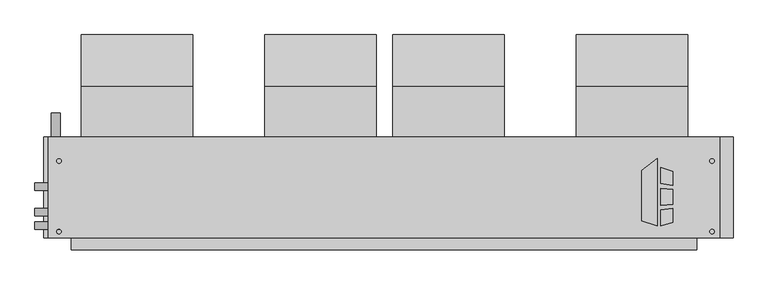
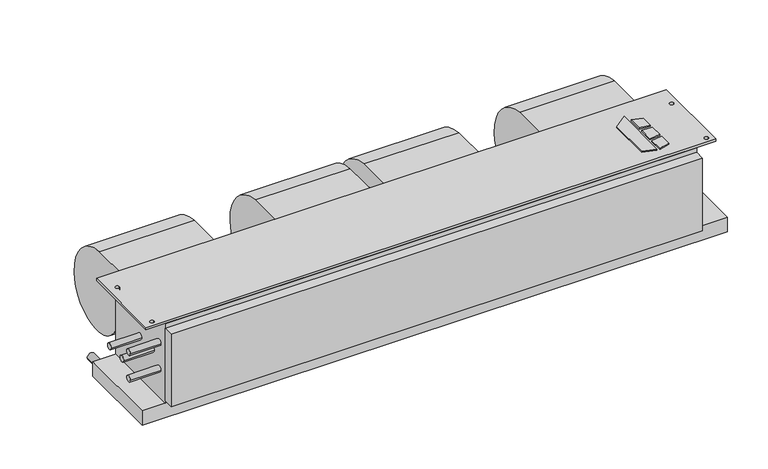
"""IFC4 building model written with IfcOpenShell, lengths in millimetres: proxy geometry, Concealed_Horizontal_Fan_Coil_Unit_-_CHY_-_IEC_-_4-Pipe_LH_2022 : Size 10 - 277v/60Hz/1Ph - 4/1 Coil."""

from ifc_helpers import new_model, si_unit, point, frame, frame_2d, origin, origin_with_axes, place, context, project, spatial, polyline, circle_curve, trimmed, segment, composite_curve, outline, extrude, source, transform, mapped, element, save


def mechanical_equipment_4577cfd4(model_context):
    return source(origin(), model_context, "Body", "SweptSolid", [
        extrude(outline(polyline([(696.6019761, -202.5703476), (729.1602728, -177.1330184), (729.1602728, -319.0875), (696.6019761, -308.8679201), (696.6019761, -202.5703476)])), origin_with_axes(), (0.0, 0.0, 1.0), 3.175),
        extrude(outline(polyline([(735.9186058, -230.442352), (735.9186058, -195.9624379), (762.0, -204.1490115), (762.0, -233.6447446), (735.9186058, -230.442352)])), origin_with_axes(), (0.0, 0.0, 1.0), 3.175),
        extrude(outline(polyline([(762.0, -312.0990115), (735.9186058, -319.0875), (735.9186058, -285.8661996), (762.0, -282.3243564), (762.0, -312.0990115)])), origin_with_axes(), (0.0, 0.0, 1.0), 3.175),
        extrude(outline(polyline([(762.0, -242.7263277), (762.0, -273.976483), (735.9186058, -276.717748), (735.9186058, -240.8600378), (762.0, -242.7263277)])), origin_with_axes(), (0.0, 0.0, 1.0), 3.175),
        extrude(outline(composite_curve([segment(trimmed(circle_curve(frame_2d((-33.198831, -136.0299844)), 117.3559541), [point((-23.8125, -19.05))], [point((84.1375, -138.176))], False, "CARTESIAN"), True, "CONTINUOUS"), segment(trimmed(circle_curve(frame_2d((-11.5977337, -136.4250563)), 95.7512443), [point((84.1375, -138.176))], [point((-23.8125, -231.394))], False, "CARTESIAN"), True, "CONTINUOUS"), segment(trimmed(circle_curve(frame_2d((-11.6288131, -136.6666968)), 95.5076133), [point((-23.8125, -231.394))], [point((-107.1245, -138.176))], False, "CARTESIAN"), True, "CONTINUOUS"), segment(trimmed(circle_curve(frame_2d((-126.2059828, -138.4775816)), 19.0838659), [point((-107.1245, -138.176))], [point((-119.3963373, -120.65))], True, "CARTESIAN"), True, "CONTINUOUS"), segment(polyline([(-119.3963373, -120.65), (-131.7625, -120.65), (-131.7625, -19.05), (-23.8125, -19.05)]), True, "CONTINUOUS")], self_intersect=False)), frame((558.038, 0.0, 0.0), z_axis=(1.0, 0.0, 0.0), x_axis=(0.0, 1.0, 0.0)), (0.0, 0.0, 1.0), 235.712),
        extrude(outline(composite_curve([segment(trimmed(circle_curve(frame_2d((-33.198831, -136.0299844)), 117.3559541), [point((-23.8125, -19.05))], [point((84.1375, -138.176))], False, "CARTESIAN"), True, "CONTINUOUS"), segment(trimmed(circle_curve(frame_2d((-11.5977337, -136.4250563)), 95.7512443), [point((84.1375, -138.176))], [point((-23.8125, -231.394))], False, "CARTESIAN"), True, "CONTINUOUS"), segment(trimmed(circle_curve(frame_2d((-11.6288131, -136.6666968)), 95.5076133), [point((-23.8125, -231.394))], [point((-107.1245, -138.176))], False, "CARTESIAN"), True, "CONTINUOUS"), segment(trimmed(circle_curve(frame_2d((-126.2059828, -138.4775816)), 19.0838659), [point((-107.1245, -138.176))], [point((-119.3963373, -120.65))], True, "CARTESIAN"), True, "CONTINUOUS"), segment(polyline([(-119.3963373, -120.65), (-131.7625, -120.65), (-131.7625, -19.05), (-23.8125, -19.05)]), True, "CONTINUOUS")], self_intersect=False)), frame((-486.537, 0.0, 0.0), z_axis=(1.0, 0.0, 0.0), x_axis=(0.0, 1.0, 0.0)), (0.0, 0.0, 1.0), 235.712),
        extrude(outline(composite_curve([segment(trimmed(circle_curve(frame_2d((-33.198831, -136.0299844)), 117.3559541), [point((-23.8125, -19.05))], [point((84.1375, -138.176))], False, "CARTESIAN"), True, "CONTINUOUS"), segment(trimmed(circle_curve(frame_2d((-11.5977337, -136.4250563)), 95.7512443), [point((84.1375, -138.176))], [point((-23.8125, -231.394))], False, "CARTESIAN"), True, "CONTINUOUS"), segment(trimmed(circle_curve(frame_2d((-11.6288131, -136.6666968)), 95.5076133), [point((-23.8125, -231.394))], [point((-107.1245, -138.176))], False, "CARTESIAN"), True, "CONTINUOUS"), segment(trimmed(circle_curve(frame_2d((-126.2059828, -138.4775816)), 19.0838659), [point((-107.1245, -138.176))], [point((-119.3963373, -120.65))], True, "CARTESIAN"), True, "CONTINUOUS"), segment(polyline([(-119.3963373, -120.65), (-131.7625, -120.65), (-131.7625, -19.05), (-23.8125, -19.05)]), True, "CONTINUOUS")], self_intersect=False)), frame((-99.187, 0.0, 0.0), z_axis=(1.0, 0.0, 0.0), x_axis=(0.0, 1.0, 0.0)), (0.0, 0.0, 1.0), 235.712),
        extrude(outline(composite_curve([segment(trimmed(circle_curve(frame_2d((-33.198831, -136.0299844)), 117.3559541), [point((-23.8125, -19.05))], [point((84.1375, -138.176))], False, "CARTESIAN"), True, "CONTINUOUS"), segment(trimmed(circle_curve(frame_2d((-11.5977337, -136.4250563)), 95.7512443), [point((84.1375, -138.176))], [point((-23.8125, -231.394))], False, "CARTESIAN"), True, "CONTINUOUS"), segment(trimmed(circle_curve(frame_2d((-11.6288131, -136.6666968)), 95.5076133), [point((-23.8125, -231.394))], [point((-107.1245, -138.176))], False, "CARTESIAN"), True, "CONTINUOUS"), segment(trimmed(circle_curve(frame_2d((-126.2059828, -138.4775816)), 19.0838659), [point((-107.1245, -138.176))], [point((-119.3963373, -120.65))], True, "CARTESIAN"), True, "CONTINUOUS"), segment(polyline([(-119.3963373, -120.65), (-131.7625, -120.65), (-131.7625, -19.05), (-23.8125, -19.05)]), True, "CONTINUOUS")], self_intersect=False)), frame((170.688, 0.0, 0.0), z_axis=(1.0, 0.0, 0.0), x_axis=(0.0, 1.0, 0.0)), (0.0, 0.0, 1.0), 235.712),
        extrude(outline(polyline([(860.425, -131.7625), (860.425, -344.4875), (-555.625, -344.4875), (-555.625, -131.7625), (860.425, -131.7625)]), holes=[composite_curve([segment(trimmed(circle_curve(frame_2d((-533.4, -182.5625)), 4.7625), [point((-538.1625, -182.5625))], [point((-528.6375, -182.5625))], True, "CARTESIAN"), True, "CONTINUOUS"), segment(trimmed(circle_curve(frame_2d((-533.4, -182.5625)), 4.7625), [point((-528.6375, -182.5625))], [point((-538.1625, -182.5625))], True, "CARTESIAN"), True, "CONTINUOUS")], self_intersect=False), composite_curve([segment(trimmed(circle_curve(frame_2d((-533.4, -331.7875)), 4.7625), [point((-538.1625, -331.7875))], [point((-528.6375, -331.7875))], True, "CARTESIAN"), True, "CONTINUOUS"), segment(trimmed(circle_curve(frame_2d((-533.4, -331.7875)), 4.7625), [point((-528.6375, -331.7875))], [point((-538.1625, -331.7875))], True, "CARTESIAN"), True, "CONTINUOUS")], self_intersect=False), composite_curve([segment(trimmed(circle_curve(frame_2d((844.55, -182.5625)), 4.7625), [point((839.7875, -182.5625))], [point((849.3125, -182.5625))], True, "CARTESIAN"), True, "CONTINUOUS"), segment(trimmed(circle_curve(frame_2d((844.55, -182.5625)), 4.7625), [point((849.3125, -182.5625))], [point((839.7875, -182.5625))], True, "CARTESIAN"), True, "CONTINUOUS")], self_intersect=False), composite_curve([segment(trimmed(circle_curve(frame_2d((844.55, -331.7875)), 4.7625), [point((839.7875, -331.7875))], [point((849.3125, -331.7875))], True, "CARTESIAN"), True, "CONTINUOUS"), segment(trimmed(circle_curve(frame_2d((844.55, -331.7875)), 4.7625), [point((849.3125, -331.7875))], [point((839.7875, -331.7875))], True, "CARTESIAN"), True, "CONTINUOUS")], self_intersect=False)]), frame((0.0, 0.0, -6.35), z_axis=(0.0, 0.0, 1.0), x_axis=(1.0, 0.0, 0.0)), (0.0, 0.0, 1.0), 6.35),
        extrude(outline(composite_curve([segment(trimmed(circle_curve(frame_2d((-241.3, -539.75)), 9.525), [point((-241.3, -549.275))], [point((-241.3, -530.225))], False, "CARTESIAN"), True, "CONTINUOUS"), segment(trimmed(circle_curve(frame_2d((-241.3, -539.75)), 9.525), [point((-241.3, -530.225))], [point((-241.3, -549.275))], False, "CARTESIAN"), True, "CONTINUOUS")], self_intersect=False)), frame((0.0, -131.7625, 0.0), z_axis=(0.0, 1.0, 0.0), x_axis=(0.0, 0.0, 1.0)), (0.0, 0.0, 1.0), 50.8),
        extrude(outline(polyline([(812.8, -369.8875), (-508.0, -369.8875), (-508.0, -344.4875), (812.8, -344.4875), (812.8, -369.8875)])), frame((0.0, 0.0, -209.55), z_axis=(0.0, 0.0, 1.0), x_axis=(1.0, 0.0, 0.0)), (0.0, 0.0, 1.0), 190.5),
        extrude(outline(polyline([(889.0, -131.7625), (889.0, -344.4875), (-565.15, -344.4875), (-565.15, -131.7625), (889.0, -131.7625)])), frame((0.0, 0.0, -254.0), z_axis=(0.0, 0.0, 1.0), x_axis=(1.0, 0.0, 0.0)), (0.0, 0.0, 1.0), 38.1),
        extrude(outline(composite_curve([segment(trimmed(circle_curve(frame_2d((-236.5375, -104.775)), 7.9375), [point((-228.6, -104.775))], [point((-244.475, -104.775))], False, "CARTESIAN"), True, "CONTINUOUS"), segment(trimmed(circle_curve(frame_2d((-236.5375, -104.775)), 7.9375), [point((-244.475, -104.775))], [point((-228.6, -104.775))], False, "CARTESIAN"), True, "CONTINUOUS")], self_intersect=False)), frame((-584.2, 0.0, 0.0), z_axis=(1.0, 0.0, 0.0), x_axis=(0.0, 1.0, 0.0)), (0.0, 0.0, 1.0), 76.2),
        extrude(outline(composite_curve([segment(trimmed(circle_curve(frame_2d((-290.5125, -104.775)), 7.9375), [point((-282.575, -104.775))], [point((-298.45, -104.775))], False, "CARTESIAN"), True, "CONTINUOUS"), segment(trimmed(circle_curve(frame_2d((-290.5125, -104.775)), 7.9375), [point((-298.45, -104.775))], [point((-282.575, -104.775))], False, "CARTESIAN"), True, "CONTINUOUS")], self_intersect=False)), frame((-584.2, 0.0, 0.0), z_axis=(1.0, 0.0, 0.0), x_axis=(0.0, 1.0, 0.0)), (0.0, 0.0, 1.0), 76.2),
        extrude(outline(composite_curve([segment(trimmed(circle_curve(frame_2d((-319.0875, -69.85)), 7.9375), [point((-311.15, -69.85))], [point((-327.025, -69.85))], False, "CARTESIAN"), True, "CONTINUOUS"), segment(trimmed(circle_curve(frame_2d((-319.0875, -69.85)), 7.9375), [point((-327.025, -69.85))], [point((-311.15, -69.85))], False, "CARTESIAN"), True, "CONTINUOUS")], self_intersect=False)), frame((-584.2, 0.0, 0.0), z_axis=(1.0, 0.0, 0.0), x_axis=(0.0, 1.0, 0.0)), (0.0, 0.0, 1.0), 76.2),
        extrude(outline(composite_curve([segment(trimmed(circle_curve(frame_2d((-319.0875, -139.7)), 7.9375), [point((-311.15, -139.7))], [point((-327.025, -139.7))], False, "CARTESIAN"), True, "CONTINUOUS"), segment(trimmed(circle_curve(frame_2d((-319.0875, -139.7)), 7.9375), [point((-327.025, -139.7))], [point((-311.15, -139.7))], False, "CARTESIAN"), True, "CONTINUOUS")], self_intersect=False)), frame((-584.2, 0.0, 0.0), z_axis=(1.0, 0.0, 0.0), x_axis=(0.0, 1.0, 0.0)), (0.0, 0.0, 1.0), 76.2),
        extrude(outline(polyline([(812.8, -344.4875), (-508.0, -344.4875), (-508.0, -131.7625), (812.8, -131.7625), (812.8, -344.4875)])), frame((0.0, 0.0, -215.9), z_axis=(0.0, 0.0, 1.0), x_axis=(1.0, 0.0, 0.0)), (0.0, 0.0, 1.0), 209.55),
    ])


if __name__ == "__main__":
    model = new_model("IFC4")
    model_context = context("Model", 3, world=origin())
    ifc_project = project(units=[si_unit("LENGTHUNIT", "METRE", prefix="MILLI")], contexts=[model_context])
    site = spatial("IfcSite", under=ifc_project)
    building = spatial("IfcBuilding", under=site)
    placement = place(None, origin())
    mechanical_equipment_shape = mechanical_equipment_4577cfd4(model_context)
    element("IfcBuildingElementProxy", 1, Name="Concealed_Horizontal_Fan_Coil_Unit_-_CHY_-_IEC_-_4-Pipe_LH_2022 : Size 10 - 277v/60Hz/1Ph - 4/1 Coil", ObjectType="Concealed_Horizontal_Fan_Coil_Unit_-_CHY_-_IEC_-_4-Pipe_LH_2022 : Size 10 - 277v/60Hz/1Ph - 4/1 Coil", at=placement, inside=building, context=model_context, shape_type="MappedRepresentation", body=[
        mapped(mechanical_equipment_shape, transform((0.0, 0.0, 0.0), x_axis=(1.0, 0.0, 0.0), y_axis=(0.0, 1.0, 0.0), z_axis=(0.0, 0.0, 1.0))),
    ])
    save(model, "model.ifc")
